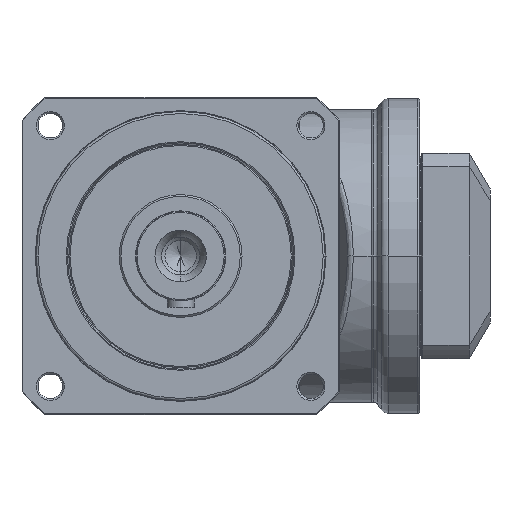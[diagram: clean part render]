
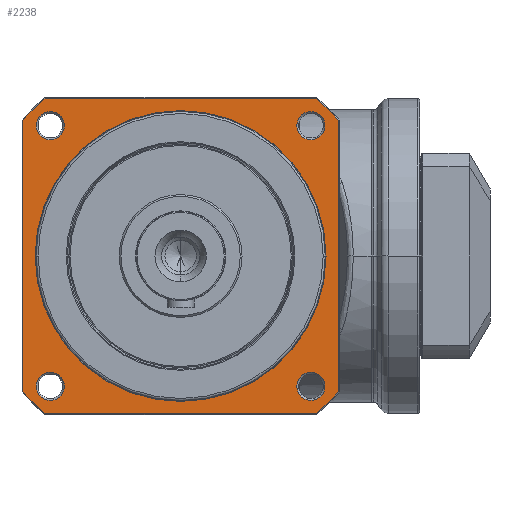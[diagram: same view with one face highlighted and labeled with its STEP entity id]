
A CAD part, left-side view. The second image highlights one B-rep face of the part: STEP entity #2238.
In plain terms, the highlighted planar face has unit normal (-1, 0, 0).
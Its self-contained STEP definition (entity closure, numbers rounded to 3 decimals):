
#561=CARTESIAN_POINT('',(12.5,58.336,-58.336));
#562=DIRECTION('',(1.,0.,0.));
#563=DIRECTION('',(0.,-1.,0.));
#564=AXIS2_PLACEMENT_3D('',#561,#562,#563);
#566=CARTESIAN_POINT('',(12.5,58.336,-58.336));
#567=DIRECTION('',(1.,0.,0.));
#568=DIRECTION('',(0.,1.,0.));
#569=AXIS2_PLACEMENT_3D('',#566,#567,#568);
#571=CARTESIAN_POINT('',(12.5,58.336,58.336));
#572=DIRECTION('',(1.,0.,0.));
#573=DIRECTION('',(0.,0.,-1.));
#574=AXIS2_PLACEMENT_3D('',#571,#572,#573);
#576=CARTESIAN_POINT('',(12.5,58.336,58.336));
#577=DIRECTION('',(1.,0.,0.));
#578=DIRECTION('',(0.,0.,1.));
#579=AXIS2_PLACEMENT_3D('',#576,#577,#578);
#581=CARTESIAN_POINT('',(12.5,-58.336,58.336));
#582=DIRECTION('',(1.,0.,0.));
#583=DIRECTION('',(0.,1.,0.));
#584=AXIS2_PLACEMENT_3D('',#581,#582,#583);
#586=CARTESIAN_POINT('',(12.5,-58.336,58.336));
#587=DIRECTION('',(1.,0.,0.));
#588=DIRECTION('',(0.,-1.,0.));
#589=AXIS2_PLACEMENT_3D('',#586,#587,#588);
#591=CARTESIAN_POINT('',(12.5,-58.336,-58.336));
#592=DIRECTION('',(1.,0.,0.));
#593=DIRECTION('',(0.,0.,1.));
#594=AXIS2_PLACEMENT_3D('',#591,#592,#593);
#596=CARTESIAN_POINT('',(12.5,-58.336,-58.336));
#597=DIRECTION('',(1.,0.,0.));
#598=DIRECTION('',(0.,0.,-1.));
#599=AXIS2_PLACEMENT_3D('',#596,#597,#598);
#601=CARTESIAN_POINT('',(12.5,0.,0.));
#602=DIRECTION('',(-1.,0.,0.));
#603=DIRECTION('',(0.,1.,0.));
#604=AXIS2_PLACEMENT_3D('',#601,#602,#603);
#606=CARTESIAN_POINT('',(12.5,0.,0.));
#607=DIRECTION('',(-1.,0.,0.));
#608=DIRECTION('',(0.,-1.,0.));
#609=AXIS2_PLACEMENT_3D('',#606,#607,#608);
#611=CARTESIAN_POINT('',(12.5,0.,0.));
#612=DIRECTION('',(-1.,0.,0.));
#613=DIRECTION('',(0.,0.758,-0.652));
#614=AXIS2_PLACEMENT_3D('',#611,#612,#613);
#616=DIRECTION('',(0.,0.,-1.));
#617=VECTOR('',#616,121.38);
#618=CARTESIAN_POINT('',(12.5,70.6,60.69));
#619=LINE('',#618,#617);
#620=CARTESIAN_POINT('',(12.5,0.,0.));
#621=DIRECTION('',(-1.,0.,0.));
#622=DIRECTION('',(0.,0.652,0.758));
#623=AXIS2_PLACEMENT_3D('',#620,#621,#622);
#625=DIRECTION('',(0.,1.,0.));
#626=VECTOR('',#625,121.38);
#627=CARTESIAN_POINT('',(12.5,-60.69,70.6));
#628=LINE('',#627,#626);
#629=CARTESIAN_POINT('',(12.5,0.,0.));
#630=DIRECTION('',(-1.,0.,0.));
#631=DIRECTION('',(0.,-0.758,0.652));
#632=AXIS2_PLACEMENT_3D('',#629,#630,#631);
#634=DIRECTION('',(0.,0.,1.));
#635=VECTOR('',#634,121.38);
#636=CARTESIAN_POINT('',(12.5,-70.6,-60.69));
#637=LINE('',#636,#635);
#638=CARTESIAN_POINT('',(12.5,0.,0.));
#639=DIRECTION('',(-1.,0.,0.));
#640=DIRECTION('',(0.,-0.652,-0.758));
#641=AXIS2_PLACEMENT_3D('',#638,#639,#640);
#643=DIRECTION('',(0.,-1.,0.));
#644=VECTOR('',#643,121.38);
#645=CARTESIAN_POINT('',(12.5,60.69,-70.6));
#646=LINE('',#645,#644);
#1201=CARTESIAN_POINT('',(12.5,52.036,-58.336));
#1202=CARTESIAN_POINT('',(12.5,64.636,-58.336));
#1203=VERTEX_POINT('',#1201);
#1204=VERTEX_POINT('',#1202);
#1217=CARTESIAN_POINT('',(12.5,58.336,52.036));
#1218=CARTESIAN_POINT('',(12.5,58.336,64.636));
#1219=VERTEX_POINT('',#1217);
#1220=VERTEX_POINT('',#1218);
#1233=CARTESIAN_POINT('',(12.5,-52.036,58.336));
#1234=CARTESIAN_POINT('',(12.5,-64.636,58.336));
#1235=VERTEX_POINT('',#1233);
#1236=VERTEX_POINT('',#1234);
#1249=CARTESIAN_POINT('',(12.5,-58.336,
-52.036));
#1250=CARTESIAN_POINT('',(12.5,-58.336,
-64.636));
#1251=VERTEX_POINT('',#1249);
#1252=VERTEX_POINT('',#1250);
#1337=CARTESIAN_POINT('',(12.5,70.6,-60.69));
#1338=CARTESIAN_POINT('',(12.5,60.69,-70.6));
#1339=VERTEX_POINT('',#1337);
#1340=VERTEX_POINT('',#1338);
#1341=CARTESIAN_POINT('',(12.5,-60.69,
-70.6));
#1342=VERTEX_POINT('',#1341);
#1347=CARTESIAN_POINT('',(12.5,-70.6,-60.69));
#1348=VERTEX_POINT('',#1347);
#1349=CARTESIAN_POINT('',(12.5,-70.6,60.69));
#1350=VERTEX_POINT('',#1349);
#1355=CARTESIAN_POINT('',(12.5,-60.69,70.6));
#1356=VERTEX_POINT('',#1355);
#1357=CARTESIAN_POINT('',(12.5,60.69,70.6));
#1358=VERTEX_POINT('',#1357);
#1363=CARTESIAN_POINT('',(12.5,70.6,60.69));
#1364=VERTEX_POINT('',#1363);
#1373=CARTESIAN_POINT('',(12.5,65.1,0.));
#1374=CARTESIAN_POINT('',(12.5,-65.1,0.));
#1375=VERTEX_POINT('',#1373);
#1376=VERTEX_POINT('',#1374);
#2186=CARTESIAN_POINT('',(12.5,0.,0.));
#2187=DIRECTION('',(1.,0.,0.));
#2188=DIRECTION('',(0.,-1.,0.));
#2189=AXIS2_PLACEMENT_3D('',#2186,#2187,#2188);
#2190=PLANE('',#2189);
#2192=ORIENTED_EDGE('',*,*,#2191,.F.);
#2194=ORIENTED_EDGE('',*,*,#2193,.F.);
#2196=ORIENTED_EDGE('',*,*,#2195,.F.);
#2198=ORIENTED_EDGE('',*,*,#2197,.F.);
#2200=ORIENTED_EDGE('',*,*,#2199,.F.);
#2202=ORIENTED_EDGE('',*,*,#2201,.F.);
#2204=ORIENTED_EDGE('',*,*,#2203,.F.);
#2206=ORIENTED_EDGE('',*,*,#2205,.F.);
#2207=EDGE_LOOP('',(#2192,#2194,#2196,#2198,#2200,#2202,#2204,#2206));
#2208=FACE_OUTER_BOUND('',#2207,.F.);
#2209=ORIENTED_EDGE('',*,*,#2176,.F.);
#2211=ORIENTED_EDGE('',*,*,#2210,.F.);
#2212=EDGE_LOOP('',(#2209,#2211));
#2213=FACE_BOUND('',#2212,.F.);
#2215=ORIENTED_EDGE('',*,*,#2214,.F.);
#2217=ORIENTED_EDGE('',*,*,#2216,.F.);
#2218=EDGE_LOOP('',(#2215,#2217));
#2219=FACE_BOUND('',#2218,.F.);
#2221=ORIENTED_EDGE('',*,*,#2220,.F.);
#2223=ORIENTED_EDGE('',*,*,#2222,.F.);
#2224=EDGE_LOOP('',(#2221,#2223));
#2225=FACE_BOUND('',#2224,.F.);
#2227=ORIENTED_EDGE('',*,*,#2226,.F.);
#2229=ORIENTED_EDGE('',*,*,#2228,.F.);
#2230=EDGE_LOOP('',(#2227,#2229));
#2231=FACE_BOUND('',#2230,.F.);
#2233=ORIENTED_EDGE('',*,*,#2232,.T.);
#2235=ORIENTED_EDGE('',*,*,#2234,.T.);
#2236=EDGE_LOOP('',(#2233,#2235));
#2237=FACE_BOUND('',#2236,.F.);
#2238=ADVANCED_FACE('',(#2208,#2213,#2219,#2225,#2231,#2237),#2190,.F.);
#565=CIRCLE('',#564,6.3);
#570=CIRCLE('',#569,6.3);
#575=CIRCLE('',#574,6.3);
#580=CIRCLE('',#579,6.3);
#585=CIRCLE('',#584,6.3);
#590=CIRCLE('',#589,6.3);
#595=CIRCLE('',#594,6.3);
#600=CIRCLE('',#599,6.3);
#605=CIRCLE('',#604,65.1);
#610=CIRCLE('',#609,65.1);
#615=CIRCLE('',#614,93.1);
#624=CIRCLE('',#623,93.1);
#633=CIRCLE('',#632,93.1);
#642=CIRCLE('',#641,93.1);
#2176=EDGE_CURVE('',#1203,#1204,#565,.T.);
#2191=EDGE_CURVE('',#1339,#1340,#615,.T.);
#2193=EDGE_CURVE('',#1364,#1339,#619,.T.);
#2195=EDGE_CURVE('',#1358,#1364,#624,.T.);
#2197=EDGE_CURVE('',#1356,#1358,#628,.T.);
#2199=EDGE_CURVE('',#1350,#1356,#633,.T.);
#2201=EDGE_CURVE('',#1348,#1350,#637,.T.);
#2203=EDGE_CURVE('',#1342,#1348,#642,.T.);
#2205=EDGE_CURVE('',#1340,#1342,#646,.T.);
#2210=EDGE_CURVE('',#1204,#1203,#570,.T.);
#2214=EDGE_CURVE('',#1219,#1220,#575,.T.);
#2216=EDGE_CURVE('',#1220,#1219,#580,.T.);
#2220=EDGE_CURVE('',#1235,#1236,#585,.T.);
#2222=EDGE_CURVE('',#1236,#1235,#590,.T.);
#2226=EDGE_CURVE('',#1251,#1252,#595,.T.);
#2228=EDGE_CURVE('',#1252,#1251,#600,.T.);
#2232=EDGE_CURVE('',#1375,#1376,#605,.T.);
#2234=EDGE_CURVE('',#1376,#1375,#610,.T.);
